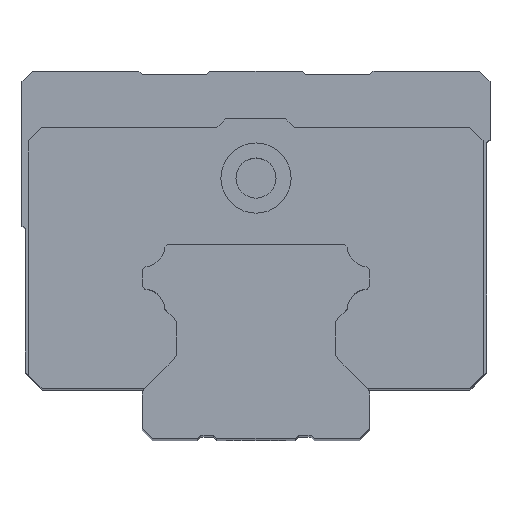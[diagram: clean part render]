
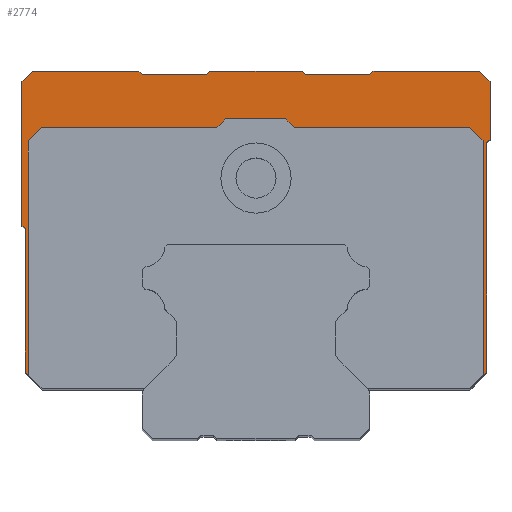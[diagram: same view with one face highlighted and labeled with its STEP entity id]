
A CAD part, top view. The second image highlights one B-rep face of the part: STEP entity #2774.
In plain terms, the highlighted planar face has unit normal (0, 0, 1).
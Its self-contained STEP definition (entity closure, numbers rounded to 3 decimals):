
#649=DIRECTION('',(0.707,0.707,0.));
#650=VECTOR('',#649,2.893);
#651=CARTESIAN_POINT('',(31.908,-21.5,52.9));
#652=LINE('',#651,#650);
#653=DIRECTION('',(0.,1.,0.));
#654=VECTOR('',#653,35.);
#655=CARTESIAN_POINT('',(33.954,-19.454,52.9));
#656=LINE('',#655,#654);
#657=DIRECTION('',(-0.707,0.707,0.));
#658=VECTOR('',#657,2.828);
#659=CARTESIAN_POINT('',(33.954,15.546,52.9));
#660=LINE('',#659,#658);
#661=DIRECTION('',(-1.,0.,0.));
#662=VECTOR('',#661,26.2);
#663=CARTESIAN_POINT('',(31.954,17.546,52.9));
#664=LINE('',#663,#662);
#665=DIRECTION('',(-0.707,0.707,0.));
#666=VECTOR('',#665,1.838);
#667=CARTESIAN_POINT('',(5.754,17.546,52.9));
#668=LINE('',#667,#666);
#669=DIRECTION('',(-1.,0.,0.));
#670=VECTOR('',#669,9.);
#671=CARTESIAN_POINT('',(4.454,18.846,52.9));
#672=LINE('',#671,#670);
#673=DIRECTION('',(-0.707,-0.707,0.));
#674=VECTOR('',#673,1.838);
#675=CARTESIAN_POINT('',(-4.546,18.846,52.9));
#676=LINE('',#675,#674);
#677=DIRECTION('',(-1.,0.,0.));
#678=VECTOR('',#677,26.2);
#679=CARTESIAN_POINT('',(-5.846,17.546,52.9));
#680=LINE('',#679,#678);
#681=DIRECTION('',(-0.707,-0.707,0.));
#682=VECTOR('',#681,2.828);
#683=CARTESIAN_POINT('',(-32.046,17.546,52.9));
#684=LINE('',#683,#682);
#685=DIRECTION('',(0.,-1.,0.));
#686=VECTOR('',#685,34.999);
#687=CARTESIAN_POINT('',(-34.046,15.546,52.9));
#688=LINE('',#687,#686);
#689=DIRECTION('',(-0.707,0.707,0.));
#690=VECTOR('',#689,0.641);
#691=CARTESIAN_POINT('',(-34.046,-19.454,52.9));
#692=LINE('',#691,#690);
#693=DIRECTION('',(0.,1.,0.));
#694=VECTOR('',#693,21.5);
#695=CARTESIAN_POINT('',(-34.5,-19.,52.9));
#696=LINE('',#695,#694);
#697=DIRECTION('',(-0.707,0.707,0.));
#698=VECTOR('',#697,0.707);
#699=CARTESIAN_POINT('',(-34.5,2.5,52.9));
#700=LINE('',#699,#698);
#701=DIRECTION('',(0.,1.,0.));
#702=VECTOR('',#701,21.5);
#703=CARTESIAN_POINT('',(-35.,3.,52.9));
#704=LINE('',#703,#702);
#705=DIRECTION('',(0.707,0.707,0.));
#706=VECTOR('',#705,2.121);
#707=CARTESIAN_POINT('',(-35.,24.5,52.9));
#708=LINE('',#707,#706);
#709=DIRECTION('',(1.,0.,0.));
#710=VECTOR('',#709,16.);
#711=CARTESIAN_POINT('',(-33.5,26.,52.9));
#712=LINE('',#711,#710);
#713=DIRECTION('',(0.707,-0.707,0.));
#714=VECTOR('',#713,0.707);
#715=CARTESIAN_POINT('',(-17.5,26.,52.9));
#716=LINE('',#715,#714);
#717=DIRECTION('',(1.,0.,0.));
#718=VECTOR('',#717,9.6);
#719=CARTESIAN_POINT('',(-17.,25.5,52.9));
#720=LINE('',#719,#718);
#721=DIRECTION('',(0.707,0.707,0.));
#722=VECTOR('',#721,0.707);
#723=CARTESIAN_POINT('',(-7.4,25.5,52.9));
#724=LINE('',#723,#722);
#725=DIRECTION('',(1.,0.,0.));
#726=VECTOR('',#725,13.8);
#727=CARTESIAN_POINT('',(-6.9,26.,52.9));
#728=LINE('',#727,#726);
#729=DIRECTION('',(0.707,-0.707,0.));
#730=VECTOR('',#729,0.707);
#731=CARTESIAN_POINT('',(6.9,26.,52.9));
#732=LINE('',#731,#730);
#733=DIRECTION('',(1.,0.,0.));
#734=VECTOR('',#733,9.6);
#735=CARTESIAN_POINT('',(7.4,25.5,52.9));
#736=LINE('',#735,#734);
#737=DIRECTION('',(0.707,0.707,0.));
#738=VECTOR('',#737,0.707);
#739=CARTESIAN_POINT('',(17.,25.5,52.9));
#740=LINE('',#739,#738);
#741=DIRECTION('',(1.,0.,0.));
#742=VECTOR('',#741,16.);
#743=CARTESIAN_POINT('',(17.5,26.,52.9));
#744=LINE('',#743,#742);
#745=DIRECTION('',(0.707,-0.707,0.));
#746=VECTOR('',#745,2.121);
#747=CARTESIAN_POINT('',(33.5,26.,52.9));
#748=LINE('',#747,#746);
#749=DIRECTION('',(0.,-1.,0.));
#750=VECTOR('',#749,8.7);
#751=CARTESIAN_POINT('',(35.,24.5,52.9));
#752=LINE('',#751,#750);
#753=DIRECTION('',(-0.707,-0.707,0.));
#754=VECTOR('',#753,0.707);
#755=CARTESIAN_POINT('',(35.,15.8,52.9));
#756=LINE('',#755,#754);
#757=DIRECTION('',(0.,-1.,0.));
#758=VECTOR('',#757,34.3);
#759=CARTESIAN_POINT('',(34.5,15.3,52.9));
#760=LINE('',#759,#758);
#761=DIRECTION('',(-0.707,-0.707,0.));
#762=VECTOR('',#761,3.536);
#763=CARTESIAN_POINT('',(34.5,-19.,52.9));
#764=LINE('',#763,#762);
#765=DIRECTION('',(-1.,0.,0.));
#766=VECTOR('',#765,0.092);
#767=CARTESIAN_POINT('',(32.,-21.5,52.9));
#768=LINE('',#767,#766);
#1357=CARTESIAN_POINT('',(-34.5,-19.,52.9));
#1358=VERTEX_POINT('',#1357);
#1359=CARTESIAN_POINT('',(-34.5,2.5,52.9));
#1360=VERTEX_POINT('',#1359);
#1361=CARTESIAN_POINT('',(-35.,3.,52.9));
#1362=VERTEX_POINT('',#1361);
#1363=CARTESIAN_POINT('',(-35.,24.5,52.9));
#1364=VERTEX_POINT('',#1363);
#1365=CARTESIAN_POINT('',(-33.5,26.,52.9));
#1366=VERTEX_POINT('',#1365);
#1367=CARTESIAN_POINT('',(-17.5,26.,52.9));
#1368=VERTEX_POINT('',#1367);
#1369=CARTESIAN_POINT('',(-17.,25.5,52.9));
#1370=VERTEX_POINT('',#1369);
#1371=CARTESIAN_POINT('',(-7.4,25.5,52.9));
#1372=VERTEX_POINT('',#1371);
#1373=CARTESIAN_POINT('',(-6.9,26.,52.9));
#1374=VERTEX_POINT('',#1373);
#1375=CARTESIAN_POINT('',(6.9,26.,52.9));
#1376=VERTEX_POINT('',#1375);
#1377=CARTESIAN_POINT('',(7.4,25.5,52.9));
#1378=VERTEX_POINT('',#1377);
#1379=CARTESIAN_POINT('',(17.,25.5,52.9));
#1380=VERTEX_POINT('',#1379);
#1381=CARTESIAN_POINT('',(17.5,26.,52.9));
#1382=VERTEX_POINT('',#1381);
#1383=CARTESIAN_POINT('',(33.5,26.,52.9));
#1384=VERTEX_POINT('',#1383);
#1385=CARTESIAN_POINT('',(35.,24.5,52.9));
#1386=VERTEX_POINT('',#1385);
#1387=CARTESIAN_POINT('',(35.,15.8,52.9));
#1388=VERTEX_POINT('',#1387);
#1389=CARTESIAN_POINT('',(34.5,15.3,52.9));
#1390=VERTEX_POINT('',#1389);
#1391=CARTESIAN_POINT('',(34.5,-19.,52.9));
#1392=VERTEX_POINT('',#1391);
#1393=CARTESIAN_POINT('',(32.,-21.5,52.9));
#1394=VERTEX_POINT('',#1393);
#1545=CARTESIAN_POINT('',(31.908,-21.5,52.9));
#1546=CARTESIAN_POINT('',(33.954,-19.454,52.9));
#1547=VERTEX_POINT('',#1545);
#1548=VERTEX_POINT('',#1546);
#1549=CARTESIAN_POINT('',(33.954,15.546,52.9));
#1550=VERTEX_POINT('',#1549);
#1551=CARTESIAN_POINT('',(31.954,17.546,52.9));
#1552=VERTEX_POINT('',#1551);
#1553=CARTESIAN_POINT('',(5.754,17.546,52.9));
#1554=VERTEX_POINT('',#1553);
#1555=CARTESIAN_POINT('',(4.454,18.846,52.9));
#1556=VERTEX_POINT('',#1555);
#1557=CARTESIAN_POINT('',(-4.546,18.846,52.9));
#1558=VERTEX_POINT('',#1557);
#1559=CARTESIAN_POINT('',(-5.846,17.546,52.9));
#1560=VERTEX_POINT('',#1559);
#1561=CARTESIAN_POINT('',(-32.046,17.546,52.9));
#1562=VERTEX_POINT('',#1561);
#1563=CARTESIAN_POINT('',(-34.046,15.546,52.9));
#1564=VERTEX_POINT('',#1563);
#1565=CARTESIAN_POINT('',(-34.046,-19.454,52.9));
#1566=VERTEX_POINT('',#1565);
#2709=CARTESIAN_POINT('',(0.,0.,52.9));
#2710=DIRECTION('',(0.,0.,1.));
#2711=DIRECTION('',(1.,0.,0.));
#2712=AXIS2_PLACEMENT_3D('',#2709,#2710,#2711);
#2713=PLANE('',#2712);
#2715=ORIENTED_EDGE('',*,*,#2714,.T.);
#2717=ORIENTED_EDGE('',*,*,#2716,.T.);
#2719=ORIENTED_EDGE('',*,*,#2718,.T.);
#2721=ORIENTED_EDGE('',*,*,#2720,.T.);
#2723=ORIENTED_EDGE('',*,*,#2722,.T.);
#2725=ORIENTED_EDGE('',*,*,#2724,.T.);
#2727=ORIENTED_EDGE('',*,*,#2726,.T.);
#2729=ORIENTED_EDGE('',*,*,#2728,.T.);
#2731=ORIENTED_EDGE('',*,*,#2730,.T.);
#2733=ORIENTED_EDGE('',*,*,#2732,.T.);
#2735=ORIENTED_EDGE('',*,*,#2734,.T.);
#2737=ORIENTED_EDGE('',*,*,#2736,.T.);
#2739=ORIENTED_EDGE('',*,*,#2738,.T.);
#2741=ORIENTED_EDGE('',*,*,#2740,.T.);
#2743=ORIENTED_EDGE('',*,*,#2742,.T.);
#2745=ORIENTED_EDGE('',*,*,#2744,.T.);
#2747=ORIENTED_EDGE('',*,*,#2746,.T.);
#2749=ORIENTED_EDGE('',*,*,#2748,.T.);
#2751=ORIENTED_EDGE('',*,*,#2750,.T.);
#2753=ORIENTED_EDGE('',*,*,#2752,.T.);
#2755=ORIENTED_EDGE('',*,*,#2754,.T.);
#2757=ORIENTED_EDGE('',*,*,#2756,.T.);
#2759=ORIENTED_EDGE('',*,*,#2758,.T.);
#2761=ORIENTED_EDGE('',*,*,#2760,.T.);
#2763=ORIENTED_EDGE('',*,*,#2762,.T.);
#2765=ORIENTED_EDGE('',*,*,#2764,.T.);
#2767=ORIENTED_EDGE('',*,*,#2766,.T.);
#2769=ORIENTED_EDGE('',*,*,#2768,.T.);
#2770=ORIENTED_EDGE('',*,*,#2281,.T.);
#2771=ORIENTED_EDGE('',*,*,#2265,.T.);
#2772=EDGE_LOOP('',(#2715,#2717,#2719,#2721,#2723,#2725,#2727,#2729,#2731,#2733,
#2735,#2737,#2739,#2741,#2743,#2745,#2747,#2749,#2751,#2753,#2755,#2757,#2759,
#2761,#2763,#2765,#2767,#2769,#2770,#2771));
#2773=FACE_OUTER_BOUND('',#2772,.F.);
#2774=ADVANCED_FACE('',(#2773),#2713,.T.);
#2265=EDGE_CURVE('',#1394,#1547,#768,.T.);
#2281=EDGE_CURVE('',#1392,#1394,#764,.T.);
#2714=EDGE_CURVE('',#1547,#1548,#652,.T.);
#2716=EDGE_CURVE('',#1548,#1550,#656,.T.);
#2718=EDGE_CURVE('',#1550,#1552,#660,.T.);
#2720=EDGE_CURVE('',#1552,#1554,#664,.T.);
#2722=EDGE_CURVE('',#1554,#1556,#668,.T.);
#2724=EDGE_CURVE('',#1556,#1558,#672,.T.);
#2726=EDGE_CURVE('',#1558,#1560,#676,.T.);
#2728=EDGE_CURVE('',#1560,#1562,#680,.T.);
#2730=EDGE_CURVE('',#1562,#1564,#684,.T.);
#2732=EDGE_CURVE('',#1564,#1566,#688,.T.);
#2734=EDGE_CURVE('',#1566,#1358,#692,.T.);
#2736=EDGE_CURVE('',#1358,#1360,#696,.T.);
#2738=EDGE_CURVE('',#1360,#1362,#700,.T.);
#2740=EDGE_CURVE('',#1362,#1364,#704,.T.);
#2742=EDGE_CURVE('',#1364,#1366,#708,.T.);
#2744=EDGE_CURVE('',#1366,#1368,#712,.T.);
#2746=EDGE_CURVE('',#1368,#1370,#716,.T.);
#2748=EDGE_CURVE('',#1370,#1372,#720,.T.);
#2750=EDGE_CURVE('',#1372,#1374,#724,.T.);
#2752=EDGE_CURVE('',#1374,#1376,#728,.T.);
#2754=EDGE_CURVE('',#1376,#1378,#732,.T.);
#2756=EDGE_CURVE('',#1378,#1380,#736,.T.);
#2758=EDGE_CURVE('',#1380,#1382,#740,.T.);
#2760=EDGE_CURVE('',#1382,#1384,#744,.T.);
#2762=EDGE_CURVE('',#1384,#1386,#748,.T.);
#2764=EDGE_CURVE('',#1386,#1388,#752,.T.);
#2766=EDGE_CURVE('',#1388,#1390,#756,.T.);
#2768=EDGE_CURVE('',#1390,#1392,#760,.T.);
